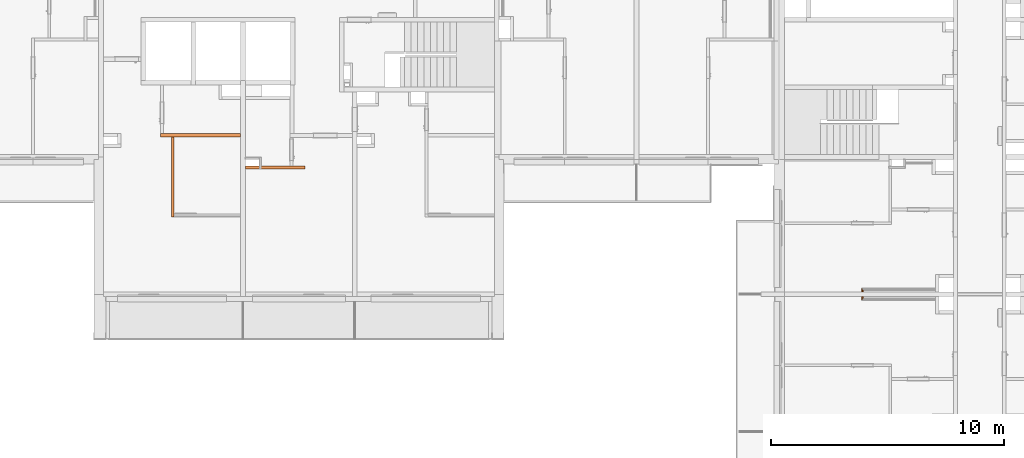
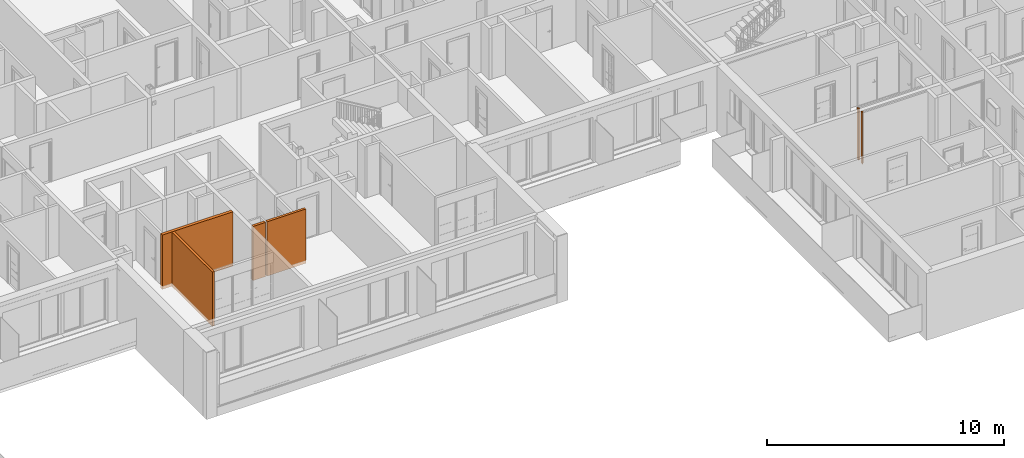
# One storey, part 57 of 67: 5 proxies.
"""IFC2X3 building model written with IfcOpenShell, lengths in millimetres."""

from ifc_helpers import new_model, entity, si_unit, converted_unit, derived_unit, money_unit, direction, frame, origin_with_axes, place, context, subcontext, project, spatial, faceted_brep, material, material_list, type_object, element, save


model = new_model("IFC2X3")

# Units and contexts
model_context = context("Model", 3, precision=0.01, world=origin_with_axes(), true_north=direction((0.34421633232, 0.938890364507)))
body_context = subcontext(model_context, "Body", "Model", "MODEL_VIEW")
ifc_project = project(units=[si_unit("LENGTHUNIT", "METRE", prefix="MILLI"), si_unit("AREAUNIT", "SQUARE_METRE"), si_unit("VOLUMEUNIT", "CUBIC_METRE"), converted_unit("PLANEANGLEUNIT", "DEGREE", entity("IfcPlaneAngleMeasure", 0.0174532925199), si_unit("PLANEANGLEUNIT", "RADIAN"), dimensions=[0, 0, 0, 0, 0, 0, 0]), si_unit("SOLIDANGLEUNIT", "STERADIAN"), money_unit("USD"), converted_unit("TIMEUNIT", "Year", entity("IfcTimeMeasure", 31556926.0), si_unit("TIMEUNIT", "SECOND"), dimensions=[0, 0, 1, 0, 0, 0, 0]), si_unit("MASSUNIT", "GRAM", prefix="KILO"), si_unit("THERMODYNAMICTEMPERATUREUNIT", "DEGREE_CELSIUS"), si_unit("LUMINOUSINTENSITYUNIT", "LUMEN"), si_unit("ENERGYUNIT", "JOULE", prefix="MEGA"), derived_unit("THERMALCONDUCTANCEUNIT", [(si_unit("POWERUNIT", "WATT"), 1), (si_unit("LENGTHUNIT", "METRE"), -1), (si_unit("THERMODYNAMICTEMPERATUREUNIT", "KELVIN"), -1)]), derived_unit("SPECIFICHEATCAPACITYUNIT", [(si_unit("ENERGYUNIT", "JOULE"), 1), (si_unit("MASSUNIT", "GRAM", prefix="KILO"), -1), (si_unit("THERMODYNAMICTEMPERATUREUNIT", "KELVIN"), -1)]), derived_unit("MASSDENSITYUNIT", [(si_unit("MASSUNIT", "GRAM", prefix="KILO"), 1), (si_unit("VOLUMEUNIT", "CUBIC_METRE"), -1)])], contexts=[model_context])

# Site, building, storey
site_placement = place(None, origin_with_axes())
site = spatial("IfcSite", under=ifc_project, at=site_placement, Name="USTRONIE MORSKIE", CompositionType="ELEMENT")
building_placement = place(site_placement, origin_with_axes())
building = spatial("IfcBuilding", under=site, at=building_placement, Name="Budynek", CompositionType="ELEMENT")
storey_placement = place(building_placement, frame((0.0, 0.0, 4000.0), z_axis=(0.0, 0.0, 1.0), x_axis=(1.0, 0.0, 0.0)))
storey = spatial("IfcBuildingStorey", under=building, at=storey_placement, Name="PIĘTRO 1", CompositionType="ELEMENT", Elevation=4000.0)

# Proxies
ifc_material_1 = material(Name="Bloczki silikatowe")
building_element_proxy_type_1 = type_object("IfcBuildingElementProxyType", Name="Bloczki silikatowe 120", PredefinedType="NOTDEFINED")
proxy_1_placement = place(storey_placement, frame((382397.920919, 724391.199036, -160.0), z_axis=(0.0, 0.0, 1.0), x_axis=(0.0, 1.0, 0.0)))
element("IfcBuildingElementProxy", 1, at=proxy_1_placement, inside=storey, type_object=building_element_proxy_type_1, material=ifc_material_1, Name="SW-04", context=body_context, shape_type="Brep", body=[
    faceted_brep([(3360.0, 60.0, 0.0), (3360.0, -60.0, 0.0), (-59.9999999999, -60.0, 0.0), (-59.9999999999, 60.0, 0.0), (3360.0, 60.0, 2800.0), (3360.0, -60.0, 2800.0), (-59.9999999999, -60.0, 2800.0), (-59.9999999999, 60.0, 2800.0)], [[[0, 1, 2, 3]], [[1, 0, 4, 5]], [[1, 5, 6, 2]], [[7, 3, 2, 6]], [[4, 0, 3, 7]], [[5, 4, 7, 6]]]),
])
proxy_2_placement = place(storey_placement, frame((385417.920919, 726446.199036, -160.0), z_axis=(0.0, 0.0, 1.0), x_axis=(1.0, 0.0, 0.0)))
element("IfcBuildingElementProxy", 2, at=proxy_2_placement, inside=storey, type_object=building_element_proxy_type_1, material=ifc_material_1, Name="SW-04", context=body_context, shape_type="Brep", body=[
    faceted_brep([(700.000154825, 59.9999999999, 0.0), (700.000154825, -59.9999999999, 0.0), (100.0, -59.9999999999, 0.0), (100.0, 59.9999999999, 0.0), (700.000154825, 59.9999999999, 2800.0), (700.000154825, -59.9999999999, 2800.0), (100.0, -59.9999999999, 2800.0), (100.0, 59.9999999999, 2800.0)], [[[0, 1, 2, 3]], [[1, 0, 4, 5]], [[1, 5, 6, 2]], [[7, 3, 2, 6]], [[4, 0, 3, 7]], [[5, 4, 7, 6]]]),
    faceted_brep([(780.000154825, 59.9999999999, 0.0), (2670.0, 59.9999999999, 0.0), (2670.0, -59.9999999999, 0.0), (780.000154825, -59.9999999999, 0.0), (780.000154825, 59.9999999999, 2800.0), (2670.0, 59.9999999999, 2800.0), (2670.0, -59.9999999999, 2800.0), (780.000154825, -59.9999999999, 2800.0)], [[[0, 1, 2, 3]], [[4, 5, 1, 0]], [[2, 1, 5, 6]], [[3, 2, 6, 7]], [[4, 0, 3, 7]], [[7, 6, 5, 4]]]),
])
ifc_material_2 = material(Name="Płyta GK")
ifc_material_3 = material(Name="-Pustka powietrzna")
ifc_material_list_1 = material_list([ifc_material_2, ifc_material_2, ifc_material_3])
building_element_proxy_type_2 = type_object("IfcBuildingElementProxyType", Name="330-SD GK 2-warstwy 75", PredefinedType="NOTDEFINED")
proxy_3_placement = place(storey_placement, frame((412017.920919, 721001.199036, -180.0), z_axis=(0.0, 0.0, 1.0), x_axis=(0.0, 1.0, 0.0)))
element("IfcBuildingElementProxy", 3, at=proxy_3_placement, inside=storey, type_object=building_element_proxy_type_2, material=ifc_material_list_1, Name="Ściana-009", context=body_context, shape_type="Brep", body=[
    faceted_brep([(100.0, 12.5, 165.0), (242.5, 12.5, 165.0), (242.5, 12.5, 2820.0), (100.0, 12.5, 2820.0), (242.5, 25.0, 165.0), (100.0, 25.0, 165.0), (242.5, 25.0, 2820.0), (100.0, 25.0, 2820.0)], [[[0, 1, 2, 3]], [[4, 1, 0, 5]], [[1, 4, 6, 2]], [[6, 7, 3, 2]], [[5, 0, 3, 7]], [[4, 5, 7, 6]]]),
    faceted_brep([(100.0, 0.0, 165.0), (230.0, 0.0, 165.0), (230.0, 0.0, 2820.0), (100.0, 0.0, 2820.0), (230.0, 12.5, 165.0), (100.0, 12.5, 165.0), (230.0, 12.5, 2820.0), (100.0, 12.5, 2820.0)], [[[0, 1, 2, 3]], [[4, 1, 0, 5]], [[1, 4, 6, 2]], [[6, 7, 3, 2]], [[5, 0, 3, 7]], [[4, 5, 7, 6]]]),
    faceted_brep([(100.0, -50.0, 180.0), (180.0, -50.0, 180.0), (180.0, -50.0, 2820.0), (100.0, -50.0, 2820.0), (180.0, 0.0, 180.0), (100.0, 0.0, 180.0), (180.0, 0.0, 2820.0), (100.0, 0.0, 2820.0)], [[[0, 1, 2, 3]], [[4, 1, 0, 5]], [[1, 4, 6, 2]], [[6, 7, 3, 2]], [[5, 0, 3, 7]], [[4, 5, 7, 6]]]),
])
ifc_material_list_2 = material_list([ifc_material_3, ifc_material_2, ifc_material_2])
proxy_4_placement = place(storey_placement, frame((412017.920919, 721001.199036, -180.0), z_axis=(0.0, 0.0, 1.0), x_axis=(0.0, -1.0, 0.0)))
element("IfcBuildingElementProxy", 4, at=proxy_4_placement, inside=storey, type_object=building_element_proxy_type_2, material=ifc_material_list_2, Name="Ściana-009", context=body_context, shape_type="Brep", body=[
    faceted_brep([(180.0, 50.0, 180.0), (100.0, 50.0, 180.0), (100.0, 50.0, 2820.0), (180.0, 50.0, 2820.0), (100.0, 0.0, 180.0), (180.0, 0.0, 180.0), (100.0, 0.0, 2820.0), (180.0, 0.0, 2820.0)], [[[0, 1, 2, 3]], [[4, 1, 0, 5]], [[1, 4, 6, 2]], [[3, 2, 6, 7]], [[5, 0, 3, 7]], [[4, 5, 7, 6]]]),
    faceted_brep([(230.0, 0.0, 165.0), (100.0, 0.0, 165.0), (100.0, 0.0, 2820.0), (230.0, 0.0, 2820.0), (100.0, -12.5, 165.0), (230.0, -12.5, 165.0), (100.0, -12.5, 2820.0), (230.0, -12.5, 2820.0)], [[[0, 1, 2, 3]], [[4, 1, 0, 5]], [[1, 4, 6, 2]], [[3, 2, 6, 7]], [[5, 0, 3, 7]], [[4, 5, 7, 6]]]),
    faceted_brep([(242.5, -12.5, 165.0), (100.0, -12.5, 165.0), (100.0, -12.5, 2820.0), (242.5, -12.5, 2820.0), (100.0, -25.0, 165.0), (242.5, -25.0, 165.0), (100.0, -25.0, 2820.0), (242.5, -25.0, 2820.0)], [[[0, 1, 2, 3]], [[4, 1, 0, 5]], [[1, 4, 6, 2]], [[3, 2, 6, 7]], [[5, 0, 3, 7]], [[4, 5, 7, 6]]]),
])
building_element_proxy_type_3 = type_object("IfcBuildingElementProxyType", Name="Bloczki silikatowe 150", PredefinedType="NOTDEFINED")
proxy_5_placement = place(storey_placement, frame((385417.920919, 727826.199036, -160.0), z_axis=(0.0, 0.0, 1.0), x_axis=(-1.0, 0.0, 0.0)))
element("IfcBuildingElementProxy", 5, at=proxy_5_placement, inside=storey, type_object=building_element_proxy_type_3, material=ifc_material_1, Name="SW-03", context=body_context, shape_type="Brep", body=[
    faceted_brep([(3540.0, 75.0, 0.0), (3540.0, -75.0, 0.0), (100.0, -75.0, 0.0), (100.0, 75.0, 0.0), (3540.0, 75.0, 2800.0), (3540.0, -75.0, 2800.0), (100.0, -75.0, 2800.0), (100.0, 75.0, 2800.0)], [[[0, 1, 2, 3]], [[1, 0, 4, 5]], [[1, 5, 6, 2]], [[7, 3, 2, 6]], [[4, 0, 3, 7]], [[5, 4, 7, 6]]]),
])

save(model, "model.ifc")
